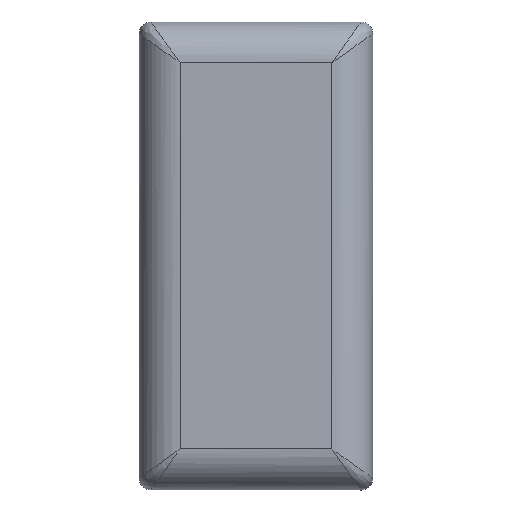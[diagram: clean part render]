
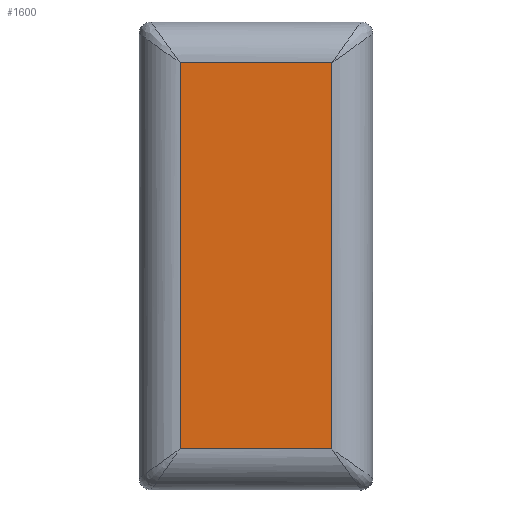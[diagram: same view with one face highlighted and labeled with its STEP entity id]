
A CAD part, top view. The second image highlights one B-rep face of the part: STEP entity #1600.
In plain terms, the highlighted planar face has unit normal (0, 0, 1).
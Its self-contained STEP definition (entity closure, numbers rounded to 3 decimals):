
#51=PLANE('',#1727);
#122=FACE_OUTER_BOUND('',#218,.T.);
#218=EDGE_LOOP('',(#1247,#1248,#1249,#1250));
#341=LINE('',#2516,#515);
#354=LINE('',#2579,#528);
#355=LINE('',#2583,#529);
#356=LINE('',#2584,#530);
#515=VECTOR('',#2005,10.05);
#528=VECTOR('',#2042,10.05);
#529=VECTOR('',#2047,10.05);
#530=VECTOR('',#2048,10.05);
#727=VERTEX_POINT('',#2506);
#729=VERTEX_POINT('',#2514);
#737=VERTEX_POINT('',#2578);
#738=VERTEX_POINT('',#2582);
#906=EDGE_CURVE('',#729,#727,#341,.T.);
#922=EDGE_CURVE('',#727,#737,#354,.T.);
#924=EDGE_CURVE('',#738,#729,#355,.T.);
#925=EDGE_CURVE('',#737,#738,#356,.T.);
#1247=ORIENTED_EDGE('',*,*,#924,.F.);
#1248=ORIENTED_EDGE('',*,*,#925,.F.);
#1249=ORIENTED_EDGE('',*,*,#922,.F.);
#1250=ORIENTED_EDGE('',*,*,#906,.F.);
#1600=ADVANCED_FACE('',(#122),#51,.F.);
#1727=AXIS2_PLACEMENT_3D('',#2581,#2045,#2046);
#2005=DIRECTION('',(0.,1.,0.));
#2042=DIRECTION('',(1.,0.,0.));
#2045=DIRECTION('center_axis',(0.,0.,
-1.));
#2046=DIRECTION('ref_axis',(0.,1.,0.));
#2047=DIRECTION('',(-1.,0.,0.));
#2048=DIRECTION('',(0.,-1.,0.));
#2506=CARTESIAN_POINT('',(121.693,-7.352,119.611));
#2514=CARTESIAN_POINT('',(121.693,-40.517,119.611));
#2516=CARTESIAN_POINT('',(121.693,-33.984,119.611));
#2578=CARTESIAN_POINT('',(134.728,-7.352,119.611));
#2579=CARTESIAN_POINT('',(123.2,-7.352,119.611));
#2581=CARTESIAN_POINT('Origin',(128.195,-23.934,119.611));
#2582=CARTESIAN_POINT('',(134.728,-40.517,119.611));
#2583=CARTESIAN_POINT('',(133.25,-40.517,119.611));
#2584=CARTESIAN_POINT('',(134.728,-27.954,119.611));
